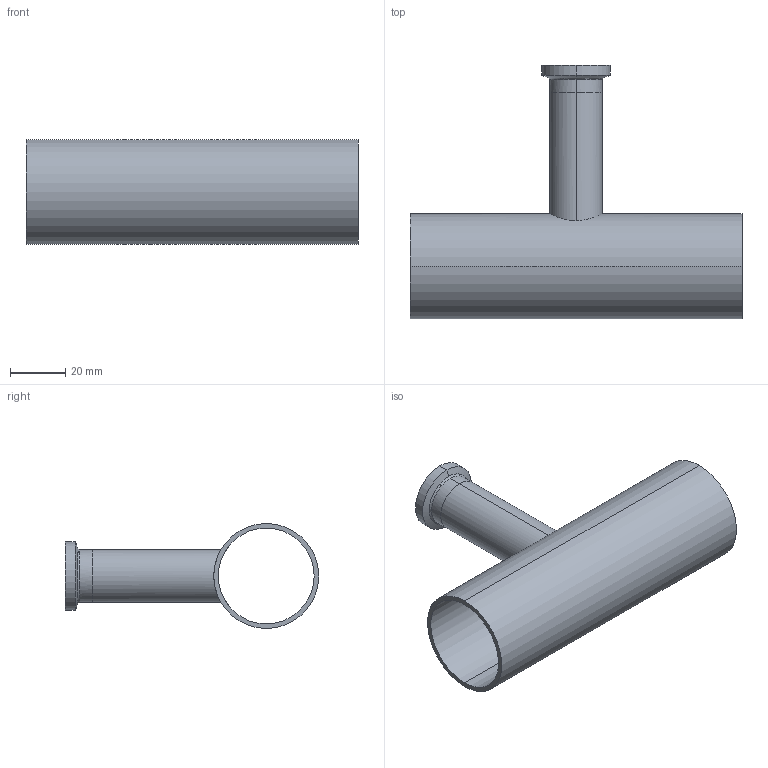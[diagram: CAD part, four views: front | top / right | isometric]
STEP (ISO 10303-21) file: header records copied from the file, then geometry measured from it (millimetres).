
FILE_DESCRIPTION (( 'STEP AP214' ), '1' );
FILE_NAME ('TE7RWWC6L1.5x.75-...STEP', '2016-05-23T07:58:46', ( 'eran' ), ( '' ), 'SwSTEP 2.0', 'SolidWorks 2016', '' );
FILE_SCHEMA (( 'AUTOMOTIVE_DESIGN' ));
Length unit declared in the file: millimetre
Products named in the file (1): TE7RWWC6L1.5x.75-..
Bounding box: 120.6 x 92.05 x 38.1 mm (x, y, z)
Volume: 27999.8 mm3; surface area: 34389.7 mm2
Topology: 2 solids, 2 shells, 34 faces, 82 edges, 54 vertices
Faces by surface type: cylinder 16, bspline 8, plane 6, cone 4
Entity records: 1355 total; most frequent: CARTESIAN_POINT 499, DIRECTION 182, ORIENTED_EDGE 164, EDGE_CURVE 82, AXIS2_PLACEMENT_3D 81, CIRCLE 54, VERTEX_POINT 54, EDGE_LOOP 42
